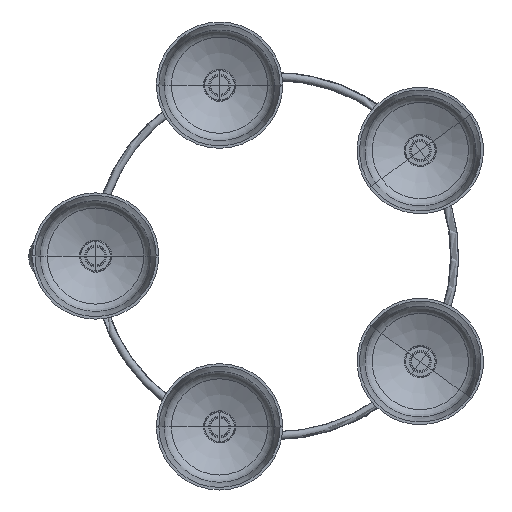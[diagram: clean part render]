
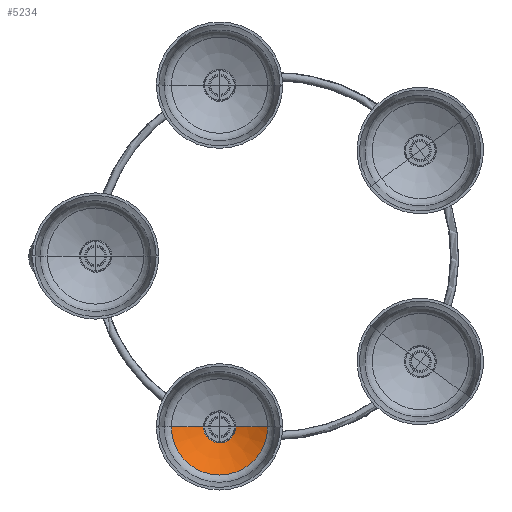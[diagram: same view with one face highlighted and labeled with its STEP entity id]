
A CAD part, top view. The second image highlights one B-rep face of the part: STEP entity #5234.
In plain terms, the highlighted free-form (B-spline) face has degree [2, 2] with [3, 5] control points.
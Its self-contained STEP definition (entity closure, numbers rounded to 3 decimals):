
#152=(
BOUNDED_SURFACE()
B_SPLINE_SURFACE(2,2,((#8410,#8411,#8412,#8413,#8414),(#8415,#8416,#8417,
#8418,#8419),(#8420,#8421,#8422,#8423,#8424)),.UNSPECIFIED.,.F.,.F.,.F.)
B_SPLINE_SURFACE_WITH_KNOTS((3,3),(3,2,3),(1.007,1.298),
(-3.142,-1.571,0.),.UNSPECIFIED.)
GEOMETRIC_REPRESENTATION_ITEM()
RATIONAL_B_SPLINE_SURFACE(((1.,0.707,1.,0.707,1.),
(0.989,0.7,0.989,0.7,
0.989),(1.,0.707,1.,0.707,1.)))
REPRESENTATION_ITEM('')
SURFACE()
);
#184=B_SPLINE_CURVE_WITH_KNOTS('',3,(#8382,#8383,#8384,#8385,#8386,#8387,
#8388),.UNSPECIFIED.,.F.,.F.,(4,1,1,1,4),(0.284,0.4,0.6,0.8,
1.),.UNSPECIFIED.);
#185=B_SPLINE_CURVE_WITH_KNOTS('',3,(#8390,#8391,#8392,#8393,#8394),
 .UNSPECIFIED.,.F.,.F.,(4,1,4),(0.,0.2,0.284),.UNSPECIFIED.);
#470=FACE_OUTER_BOUND('',#857,.T.);
#857=EDGE_LOOP('',(#3627,#3628,#3629,#3630,#3631));
#1261=CIRCLE('',#5685,241.13);
#1262=CIRCLE('',#5686,95.897);
#1263=CIRCLE('',#5687,241.13);
#2251=VERTEX_POINT('',#8379);
#2252=VERTEX_POINT('',#8381);
#2253=VERTEX_POINT('',#8389);
#2255=VERTEX_POINT('',#8425);
#2256=VERTEX_POINT('',#8427);
#2736=EDGE_CURVE('',#2252,#2251,#184,.T.);
#2737=EDGE_CURVE('',#2253,#2252,#185,.T.);
#2741=EDGE_CURVE('',#2255,#2251,#1261,.T.);
#2742=EDGE_CURVE('',#2256,#2255,#1262,.T.);
#2743=EDGE_CURVE('',#2253,#2256,#1263,.T.);
#3627=ORIENTED_EDGE('',*,*,#2741,.F.);
#3628=ORIENTED_EDGE('',*,*,#2742,.F.);
#3629=ORIENTED_EDGE('',*,*,#2743,.F.);
#3630=ORIENTED_EDGE('',*,*,#2737,.T.);
#3631=ORIENTED_EDGE('',*,*,#2736,.T.);
#5234=ADVANCED_FACE('',(#470),#152,.T.);
#5685=AXIS2_PLACEMENT_3D('',#8426,#6549,#6550);
#5686=AXIS2_PLACEMENT_3D('',#8428,#6551,#6552);
#5687=AXIS2_PLACEMENT_3D('',#8429,#6553,#6554);
#6549=DIRECTION('center_axis',(0.,-1.,0.));
#6550=DIRECTION('ref_axis',(-1.,0.,0.));
#6551=DIRECTION('center_axis',(0.,0.,
-1.));
#6552=DIRECTION('ref_axis',(-1.,0.,0.));
#6553=DIRECTION('center_axis',(0.,-1.,0.));
#6554=DIRECTION('ref_axis',(1.,0.,0.));
#8379=CARTESIAN_POINT('',(-142.649,-340.549,935.244));
#8381=CARTESIAN_POINT('',(-90.689,-365.426,935.244));
#8382=CARTESIAN_POINT('Ctrl Pts',(-90.689,-365.426,935.244));
#8383=CARTESIAN_POINT('Ctrl Pts',(-93.704,-367.849,935.244));
#8384=CARTESIAN_POINT('Ctrl Pts',(-103.075,-373.035,935.244));
#8385=CARTESIAN_POINT('Ctrl Pts',(-121.269,-373.035,935.244));
#8386=CARTESIAN_POINT('Ctrl Pts',(-138.191,-360.535,935.244));
#8387=CARTESIAN_POINT('Ctrl Pts',(-142.886,-347.417,935.244));
#8388=CARTESIAN_POINT('Ctrl Pts',(-142.649,-340.549,935.244));
#8389=CARTESIAN_POINT('',(-78.714,-340.549,935.244));
#8390=CARTESIAN_POINT('Ctrl Pts',(-78.714,-340.549,935.244));
#8391=CARTESIAN_POINT('Ctrl Pts',(-78.478,-347.417,935.244));
#8392=CARTESIAN_POINT('Ctrl Pts',(-81.817,-356.746,935.244));
#8393=CARTESIAN_POINT('Ctrl Pts',(-88.486,-363.655,935.244));
#8394=CARTESIAN_POINT('Ctrl Pts',(-90.689,-365.426,935.244));
#8410=CARTESIAN_POINT('Ctrl Pts',(-14.785,-340.549,963.679));
#8411=CARTESIAN_POINT('Ctrl Pts',(-14.785,-436.446,963.679));
#8412=CARTESIAN_POINT('Ctrl Pts',(-110.682,-436.446,963.679));
#8413=CARTESIAN_POINT('Ctrl Pts',(-206.579,-436.446,963.679));
#8414=CARTESIAN_POINT('Ctrl Pts',(-206.579,-340.549,963.679));
#8415=CARTESIAN_POINT('Ctrl Pts',(-44.688,-340.549,944.759));
#8416=CARTESIAN_POINT('Ctrl Pts',(-44.688,-406.542,944.759));
#8417=CARTESIAN_POINT('Ctrl Pts',(-110.682,-406.542,944.759));
#8418=CARTESIAN_POINT('Ctrl Pts',(-176.676,-406.542,944.759));
#8419=CARTESIAN_POINT('Ctrl Pts',(-176.676,-340.549,944.759));
#8420=CARTESIAN_POINT('Ctrl Pts',(-78.767,-340.549,935.229));
#8421=CARTESIAN_POINT('Ctrl Pts',(-78.767,-372.464,935.229));
#8422=CARTESIAN_POINT('Ctrl Pts',(-110.682,-372.464,935.229));
#8423=CARTESIAN_POINT('Ctrl Pts',(-142.597,-372.464,935.229));
#8424=CARTESIAN_POINT('Ctrl Pts',(-142.597,-340.549,935.229));
#8425=CARTESIAN_POINT('',(-206.579,-340.549,963.679));
#8426=CARTESIAN_POINT('Origin',(-77.657,-340.549,1167.45));
#8427=CARTESIAN_POINT('',(-14.785,-340.549,963.679));
#8428=CARTESIAN_POINT('Origin',(-110.682,-340.549,963.679));
#8429=CARTESIAN_POINT('Origin',(-143.707,-340.549,1167.45));
